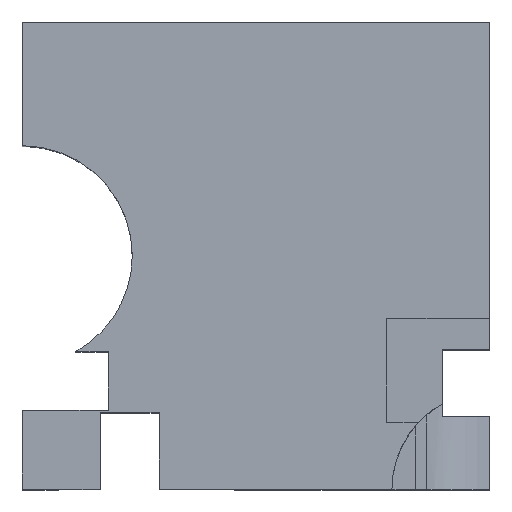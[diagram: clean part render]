
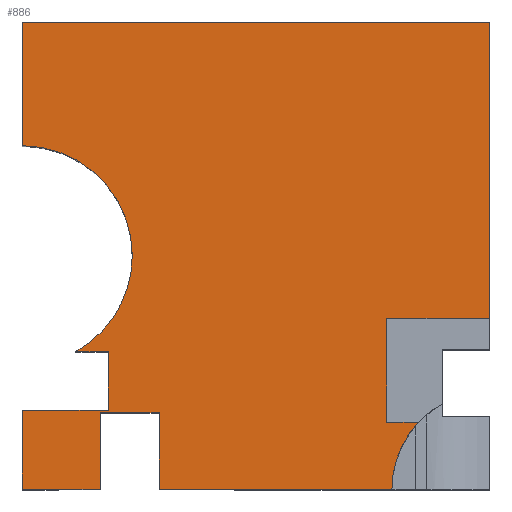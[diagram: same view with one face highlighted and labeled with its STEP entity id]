
A CAD part, top view. The second image highlights one B-rep face of the part: STEP entity #886.
In plain terms, the highlighted planar face has unit normal (0, 0, 1).
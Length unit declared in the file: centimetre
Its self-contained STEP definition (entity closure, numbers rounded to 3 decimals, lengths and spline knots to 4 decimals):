
#1 = CARTESIAN_POINT ( 'NONE',  ( 0., 500., 1000. ) ) ;
#9 = EDGE_CURVE ( 'NONE', #1767, #594, #834, .T. ) ;
#13 = CARTESIAN_POINT ( 'NONE',  ( 292.6661, 0., 1000. ) ) ;
#23 = ORIENTED_EDGE ( 'NONE', *, *, #315, .T. ) ;
#27 = DIRECTION ( 'NONE',  ( 1., 0., 0. ) ) ;
#63 = EDGE_CURVE ( 'NONE', #1020, #1291, #1240, .T. ) ;
#66 = LINE ( 'NONE', #636, #1146 ) ;
#90 = ORIENTED_EDGE ( 'NONE', *, *, #1728, .F. ) ;
#92 = CARTESIAN_POINT ( 'NONE',  ( 166.4491, 163.7113, 1000. ) ) ;
#156 = DIRECTION ( 'NONE',  ( 0., 1., 0. ) ) ;
#160 = CARTESIAN_POINT ( 'NONE',  ( 183.8564, 168.9619, 1000. ) ) ;
#168 = CARTESIAN_POINT ( 'NONE',  ( 790.8884, 0., 1000. ) ) ;
#176 = DIRECTION ( 'NONE',  ( 0., -1., 0. ) ) ;
#185 = VERTEX_POINT ( 'NONE', #1297 ) ;
#194 = CARTESIAN_POINT ( 'NONE',  ( 183.8564, 294.4786, 1000. ) ) ;
#219 = EDGE_CURVE ( 'NONE', #920, #1434, #1788, .T. ) ;
#231 = CARTESIAN_POINT ( 'NONE',  ( 166.4491, 0., 1000. ) ) ;
#240 = LINE ( 'NONE', #814, #1135 ) ;
#242 = DIRECTION ( 'NONE',  ( 0., -1., 0. ) ) ;
#243 = EDGE_CURVE ( 'NONE', #1765, #649, #1643, .T. ) ;
#250 = DIRECTION ( 'NONE',  ( 1., 0., 0. ) ) ;
#267 = LINE ( 'NONE', #840, #1654 ) ;
#281 = ORIENTED_EDGE ( 'NONE', *, *, #1200, .T. ) ;
#290 = CARTESIAN_POINT ( 'NONE',  ( 1000., 1000., 1000. ) ) ;
#293 = CARTESIAN_POINT ( 'NONE',  ( 292.6661, 163.7113, 1000. ) ) ;
#296 = CIRCLE ( 'NONE', #745, 235.1467 ) ;
#299 = CARTESIAN_POINT ( 'NONE',  ( 0., 500., 1000. ) ) ;
#307 = CARTESIAN_POINT ( 'NONE',  ( 0., 0., 1000. ) ) ;
#315 = EDGE_CURVE ( 'NONE', #1052, #1765, #1498, .T. ) ;
#316 = DIRECTION ( 'NONE',  ( -1., 0., 0. ) ) ;
#317 = CARTESIAN_POINT ( 'NONE',  ( 235.1467, 500., 1000. ) ) ;
#323 = VERTEX_POINT ( 'NONE', #374 ) ;
#331 = VECTOR ( 'NONE', #1546, 100. ) ;
#338 = CARTESIAN_POINT ( 'NONE',  ( 0., 735.1467, 1000. ) ) ;
#343 = CARTESIAN_POINT ( 'NONE',  ( 0., 1000., 1000. ) ) ;
#348 = EDGE_CURVE ( 'NONE', #1709, #920, #240, .T. ) ;
#363 = ORIENTED_EDGE ( 'NONE', *, *, #348, .F. ) ;
#374 = CARTESIAN_POINT ( 'NONE',  ( 114.2581, 294.4786, 1000. ) ) ;
#375 = CARTESIAN_POINT ( 'NONE',  ( 0., 0., 1000. ) ) ;
#384 = EDGE_CURVE ( 'NONE', #442, #1333, #576, .T. ) ;
#442 = VERTEX_POINT ( 'NONE', #317 ) ;
#456 = ORIENTED_EDGE ( 'NONE', *, *, #219, .F. ) ;
#459 = AXIS2_PLACEMENT_3D ( 'NONE', #933, #1329, #925 ) ;
#467 = EDGE_CURVE ( 'NONE', #594, #1333, #735, .T. ) ;
#474 = LINE ( 'NONE', #776, #1304 ) ;
#503 = DIRECTION ( 'NONE',  ( 0., -1., 0. ) ) ;
#511 = DIRECTION ( 'NONE',  ( 0., 0., 1. ) ) ;
#543 = ORIENTED_EDGE ( 'NONE', *, *, #1625, .T. ) ;
#549 = DIRECTION ( 'NONE',  ( 0., 0., 1. ) ) ;
#571 = CARTESIAN_POINT ( 'NONE',  ( 779.6053, 143.0752, 1000. ) ) ;
#573 = CARTESIAN_POINT ( 'NONE',  ( 1000., 365.6228, 1000. ) ) ;
#576 = CIRCLE ( 'NONE', #1606, 235.1467 ) ;
#588 = CARTESIAN_POINT ( 'NONE',  ( 0., 1000., 1000. ) ) ;
#594 = VERTEX_POINT ( 'NONE', #343 ) ;
#611 = EDGE_LOOP ( 'NONE', ( #90, #1587, #894, #938, #1365, #1011, #23, #1792, #281, #1750, #456, #363, #1068, #852, #543, #1283, #1669, #1027 ) ) ;
#624 = AXIS2_PLACEMENT_3D ( 'NONE', #375, #511, #1620 ) ;
#636 = CARTESIAN_POINT ( 'NONE',  ( 779.6053, 143.0752, 1000. ) ) ;
#645 = CARTESIAN_POINT ( 'NONE',  ( 0., 1000., 1000. ) ) ;
#649 = VERTEX_POINT ( 'NONE', #293 ) ;
#714 = LINE ( 'NONE', #290, #1455 ) ;
#735 = LINE ( 'NONE', #588, #1671 ) ;
#745 = AXIS2_PLACEMENT_3D ( 'NONE', #299, #1428, #27 ) ;
#766 = DIRECTION ( 'NONE',  ( -1., 0., 0. ) ) ;
#776 = CARTESIAN_POINT ( 'NONE',  ( 779.6053, 365.6228, 1000. ) ) ;
#783 = VECTOR ( 'NONE', #1558, 100. ) ;
#814 = CARTESIAN_POINT ( 'NONE',  ( 779.6053, 143.0752, 1000. ) ) ;
#834 = LINE ( 'NONE', #1655, #331 ) ;
#840 = CARTESIAN_POINT ( 'NONE',  ( 0., 168.9619, 1000. ) ) ;
#852 = ORIENTED_EDGE ( 'NONE', *, *, #976, .F. ) ;
#880 = DIRECTION ( 'NONE',  ( 1., 0., 0. ) ) ;
#886 = ADVANCED_FACE ( 'NONE', ( #1085 ), #1489, .T. ) ;
#894 = ORIENTED_EDGE ( 'NONE', *, *, #63, .T. ) ;
#900 = CARTESIAN_POINT ( 'NONE',  ( 779.6053, 365.6228, 1000. ) ) ;
#915 = DIRECTION ( 'NONE',  ( 1., 0., 0. ) ) ;
#920 = VERTEX_POINT ( 'NONE', #1509 ) ;
#925 = DIRECTION ( 'NONE',  ( 1., 0., 0. ) ) ;
#933 = CARTESIAN_POINT ( 'NONE',  ( 1000., 0., 1000. ) ) ;
#936 = VECTOR ( 'NONE', #1217, 100. ) ;
#938 = ORIENTED_EDGE ( 'NONE', *, *, #1751, .T. ) ;
#962 = VECTOR ( 'NONE', #915, 100. ) ;
#976 = EDGE_CURVE ( 'NONE', #1261, #1018, #474, .T. ) ;
#991 = CARTESIAN_POINT ( 'NONE',  ( 292.6661, 0., 1000. ) ) ;
#1011 = ORIENTED_EDGE ( 'NONE', *, *, #1816, .T. ) ;
#1018 = VERTEX_POINT ( 'NONE', #900 ) ;
#1020 = VERTEX_POINT ( 'NONE', #194 ) ;
#1027 = ORIENTED_EDGE ( 'NONE', *, *, #384, .F. ) ;
#1041 = VECTOR ( 'NONE', #1819, 100. ) ;
#1052 = VERTEX_POINT ( 'NONE', #1791 ) ;
#1068 = ORIENTED_EDGE ( 'NONE', *, *, #1403, .F. ) ;
#1082 = CARTESIAN_POINT ( 'NONE',  ( 166.4491, 163.7113, 1000. ) ) ;
#1085 = FACE_OUTER_BOUND ( 'NONE', #611, .T. ) ;
#1128 = LINE ( 'NONE', #13, #783 ) ;
#1135 = VECTOR ( 'NONE', #1366, 100. ) ;
#1146 = VECTOR ( 'NONE', #503, 100. ) ;
#1168 = CARTESIAN_POINT ( 'NONE',  ( 0., 0., 1000. ) ) ;
#1200 = EDGE_CURVE ( 'NONE', #649, #1224, #1128, .T. ) ;
#1217 = DIRECTION ( 'NONE',  ( 0., 1., 0. ) ) ;
#1221 = VECTOR ( 'NONE', #242, 100. ) ;
#1224 = VERTEX_POINT ( 'NONE', #991 ) ;
#1232 = CARTESIAN_POINT ( 'NONE',  ( 183.8564, 168.9619, 1000. ) ) ;
#1237 = LINE ( 'NONE', #645, #1221 ) ;
#1240 = LINE ( 'NONE', #1232, #1041 ) ;
#1261 = VERTEX_POINT ( 'NONE', #573 ) ;
#1283 = ORIENTED_EDGE ( 'NONE', *, *, #9, .T. ) ;
#1291 = VERTEX_POINT ( 'NONE', #160 ) ;
#1292 = DIRECTION ( 'NONE',  ( 1., 0., 0. ) ) ;
#1296 = VECTOR ( 'NONE', #1292, 100. ) ;
#1297 = CARTESIAN_POINT ( 'NONE',  ( 0., 168.9619, 1000. ) ) ;
#1304 = VECTOR ( 'NONE', #766, 100. ) ;
#1329 = DIRECTION ( 'NONE',  ( 0., 0., 1. ) ) ;
#1333 = VERTEX_POINT ( 'NONE', #338 ) ;
#1362 = VECTOR ( 'NONE', #880, 100. ) ;
#1365 = ORIENTED_EDGE ( 'NONE', *, *, #1506, .T. ) ;
#1366 = DIRECTION ( 'NONE',  ( 1., 0., 0. ) ) ;
#1403 = EDGE_CURVE ( 'NONE', #1018, #1709, #66, .T. ) ;
#1426 = VERTEX_POINT ( 'NONE', #1459 ) ;
#1428 = DIRECTION ( 'NONE',  ( 0., 0., 1. ) ) ;
#1434 = VERTEX_POINT ( 'NONE', #168 ) ;
#1437 = LINE ( 'NONE', #307, #1362 ) ;
#1444 = CARTESIAN_POINT ( 'NONE',  ( 1000., 1000., 1000. ) ) ;
#1455 = VECTOR ( 'NONE', #156, 100. ) ;
#1459 = CARTESIAN_POINT ( 'NONE',  ( 0., 0., 1000. ) ) ;
#1489 = PLANE ( 'NONE',  #624 ) ;
#1498 = LINE ( 'NONE', #231, #936 ) ;
#1505 = LINE ( 'NONE', #1168, #1296 ) ;
#1506 = EDGE_CURVE ( 'NONE', #185, #1426, #1237, .T. ) ;
#1509 = CARTESIAN_POINT ( 'NONE',  ( 847.4971, 143.0752, 1000. ) ) ;
#1543 = LINE ( 'NONE', #1564, #1690 ) ;
#1546 = DIRECTION ( 'NONE',  ( -1., 0., 0. ) ) ;
#1550 = DIRECTION ( 'NONE',  ( 1., 0., 0. ) ) ;
#1558 = DIRECTION ( 'NONE',  ( 0., -1., 0. ) ) ;
#1564 = CARTESIAN_POINT ( 'NONE',  ( 0., 294.4786, 1000. ) ) ;
#1587 = ORIENTED_EDGE ( 'NONE', *, *, #1685, .T. ) ;
#1606 = AXIS2_PLACEMENT_3D ( 'NONE', #1, #549, #250 ) ;
#1620 = DIRECTION ( 'NONE',  ( 1., 0., 0. ) ) ;
#1625 = EDGE_CURVE ( 'NONE', #1261, #1767, #714, .T. ) ;
#1643 = LINE ( 'NONE', #92, #962 ) ;
#1654 = VECTOR ( 'NONE', #316, 100. ) ;
#1655 = CARTESIAN_POINT ( 'NONE',  ( 0., 1000., 1000. ) ) ;
#1669 = ORIENTED_EDGE ( 'NONE', *, *, #467, .T. ) ;
#1671 = VECTOR ( 'NONE', #176, 100. ) ;
#1685 = EDGE_CURVE ( 'NONE', #323, #1020, #1543, .T. ) ;
#1690 = VECTOR ( 'NONE', #1550, 100. ) ;
#1709 = VERTEX_POINT ( 'NONE', #571 ) ;
#1728 = EDGE_CURVE ( 'NONE', #323, #442, #296, .T. ) ;
#1750 = ORIENTED_EDGE ( 'NONE', *, *, #1763, .T. ) ;
#1751 = EDGE_CURVE ( 'NONE', #1291, #185, #267, .T. ) ;
#1763 = EDGE_CURVE ( 'NONE', #1224, #1434, #1437, .T. ) ;
#1765 = VERTEX_POINT ( 'NONE', #1082 ) ;
#1767 = VERTEX_POINT ( 'NONE', #1444 ) ;
#1788 = CIRCLE ( 'NONE', #459, 209.1116 ) ;
#1791 = CARTESIAN_POINT ( 'NONE',  ( 166.4491, 0., 1000. ) ) ;
#1792 = ORIENTED_EDGE ( 'NONE', *, *, #243, .T. ) ;
#1816 = EDGE_CURVE ( 'NONE', #1426, #1052, #1505, .T. ) ;
#1819 = DIRECTION ( 'NONE',  ( 0., -1., 0. ) ) ;
